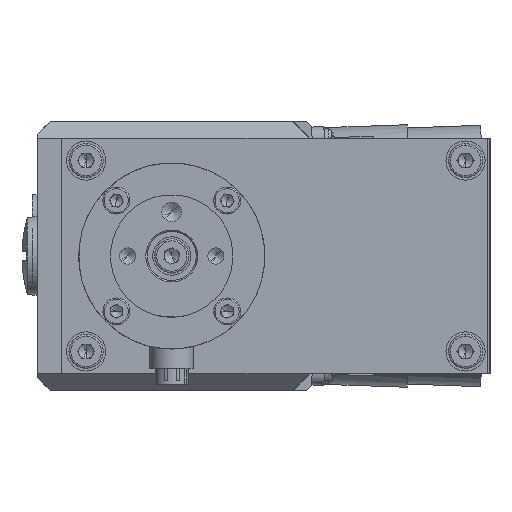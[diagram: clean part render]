
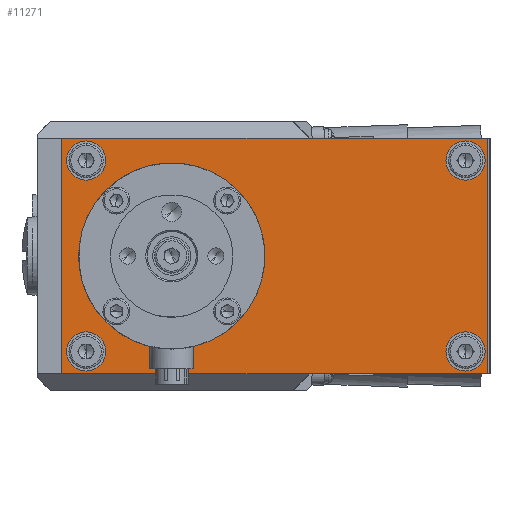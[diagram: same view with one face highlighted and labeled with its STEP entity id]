
A CAD part, left-side view. The second image highlights one B-rep face of the part: STEP entity #11271.
In plain terms, the highlighted planar face has unit normal (-1, 0, 0).
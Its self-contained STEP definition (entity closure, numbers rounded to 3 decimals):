
#1171 = EDGE_CURVE ( 'NONE', #37022, #18701, #36975, .T. ) ;
#1209 = CARTESIAN_POINT ( 'NONE',  ( -106.001, 36.879, 21.682 ) ) ;
#1442 = DIRECTION ( 'NONE',  ( 0., 0., 1. ) ) ;
#1638 = FACE_BOUND ( 'NONE', #60932, .T. ) ;
#2040 = DIRECTION ( 'NONE',  ( 0., 0., 1. ) ) ;
#2819 = CARTESIAN_POINT ( 'NONE',  ( -106.001, -23.121, 41.182 ) ) ;
#3285 = CIRCLE ( 'NONE', #46692, 15.5 ) ;
#4385 = LINE ( 'NONE', #48551, #57446 ) ;
#5001 = EDGE_LOOP ( 'NONE', ( #48140, #49958 ) ) ;
#5343 = CARTESIAN_POINT ( 'NONE',  ( -106.001, -23.121, -1.818 ) ) ;
#5771 = ORIENTED_EDGE ( 'NONE', *, *, #43112, .F. ) ;
#6635 = DIRECTION ( 'NONE',  ( -1., 0., 0. ) ) ;
#6830 = EDGE_CURVE ( 'NONE', #41278, #57452, #47120, .T. ) ;
#7094 = CARTESIAN_POINT ( 'NONE',  ( -106.001, 54.379, 41.182 ) ) ;
#7319 = DIRECTION ( 'NONE',  ( 0., 0., 1. ) ) ;
#7868 = EDGE_CURVE ( 'NONE', #33762, #30334, #56106, .T. ) ;
#8079 = CARTESIAN_POINT ( 'NONE',  ( -106.001, 59.379, -2.318 ) ) ;
#8517 = CARTESIAN_POINT ( 'NONE',  ( -106.001, 54.379, 2.182 ) ) ;
#9055 = FACE_BOUND ( 'NONE', #15400, .T. ) ;
#9257 = EDGE_CURVE ( 'NONE', #59799, #62836, #65049, .T. ) ;
#9311 = ORIENTED_EDGE ( 'NONE', *, *, #9257, .F. ) ;
#9875 = CIRCLE ( 'NONE', #23671, 4. ) ;
#9996 = VERTEX_POINT ( 'NONE', #5343 ) ;
#10100 = LINE ( 'NONE', #68487, #20051 ) ;
#10320 = DIRECTION ( 'NONE',  ( 0., 0., 1. ) ) ;
#10460 = AXIS2_PLACEMENT_3D ( 'NONE', #36754, #31230, #36966 ) ;
#10747 = VERTEX_POINT ( 'NONE', #12165 ) ;
#11271 = ADVANCED_FACE ( 'NONE', ( #47230, #24824, #23178, #9055, #1638, #11601 ), #44740, .F. ) ;
#11546 = EDGE_CURVE ( 'NONE', #18701, #37022, #9875, .T. ) ;
#11601 = FACE_OUTER_BOUND ( 'NONE', #23042, .T. ) ;
#11682 = LINE ( 'NONE', #40462, #21639 ) ;
#12165 = CARTESIAN_POINT ( 'NONE',  ( -106.001, 59.379, 45.682 ) ) ;
#12175 = DIRECTION ( 'NONE',  ( -1., 0., 0. ) ) ;
#12963 = CARTESIAN_POINT ( 'NONE',  ( -106.001, -23.121, 2.182 ) ) ;
#13136 = CARTESIAN_POINT ( 'NONE',  ( -106.001, 54.379, 37.182 ) ) ;
#13314 = DIRECTION ( 'NONE',  ( -1., 0., 0. ) ) ;
#13472 = CARTESIAN_POINT ( 'NONE',  ( -106.001, -27.621, -2.318 ) ) ;
#14695 = AXIS2_PLACEMENT_3D ( 'NONE', #7094, #13314, #7319 ) ;
#15400 = EDGE_LOOP ( 'NONE', ( #67355, #52703 ) ) ;
#15727 = DIRECTION ( 'NONE',  ( -1., 0., 0. ) ) ;
#16038 = VERTEX_POINT ( 'NONE', #61137 ) ;
#16045 = CARTESIAN_POINT ( 'NONE',  ( -106.001, 36.879, 37.182 ) ) ;
#16468 = EDGE_CURVE ( 'NONE', #49034, #36085, #4385, .T. ) ;
#17167 = CARTESIAN_POINT ( 'NONE',  ( -106.001, -23.121, 37.182 ) ) ;
#17299 = VERTEX_POINT ( 'NONE', #17823 ) ;
#17793 = DIRECTION ( 'NONE',  ( -1., 0., 0. ) ) ;
#17823 = CARTESIAN_POINT ( 'NONE',  ( -106.001, -23.121, 6.182 ) ) ;
#18238 = EDGE_CURVE ( 'NONE', #30334, #33762, #23512, .T. ) ;
#18701 = VERTEX_POINT ( 'NONE', #17167 ) ;
#20051 = VECTOR ( 'NONE', #10320, 1000. ) ;
#20640 = CARTESIAN_POINT ( 'NONE',  ( -106.001, -23.121, 41.182 ) ) ;
#21639 = VECTOR ( 'NONE', #45141, 1000. ) ;
#22375 = DIRECTION ( 'NONE',  ( 0., -1., 0. ) ) ;
#23042 = EDGE_LOOP ( 'NONE', ( #42405, #59340, #33520, #38023 ) ) ;
#23178 = FACE_BOUND ( 'NONE', #5001, .T. ) ;
#23302 = CARTESIAN_POINT ( 'NONE',  ( -106.001, -23.121, 2.182 ) ) ;
#23434 = EDGE_CURVE ( 'NONE', #10747, #49034, #47699, .T. ) ;
#23512 = CIRCLE ( 'NONE', #14695, 4. ) ;
#23671 = AXIS2_PLACEMENT_3D ( 'NONE', #20640, #15727, #63520 ) ;
#24824 = FACE_BOUND ( 'NONE', #36153, .T. ) ;
#25792 = EDGE_CURVE ( 'NONE', #57452, #41278, #3285, .T. ) ;
#26497 = AXIS2_PLACEMENT_3D ( 'NONE', #2819, #51258, #29447 ) ;
#27796 = CARTESIAN_POINT ( 'NONE',  ( -106.001, 54.379, 6.182 ) ) ;
#27949 = DIRECTION ( 'NONE',  ( 0., 0., 1. ) ) ;
#28173 = CARTESIAN_POINT ( 'NONE',  ( -106.001, 36.879, 21.682 ) ) ;
#28227 = DIRECTION ( 'NONE',  ( -1., 0., 0. ) ) ;
#28951 = DIRECTION ( 'NONE',  ( 0., 0., 1. ) ) ;
#29385 = CARTESIAN_POINT ( 'NONE',  ( -106.001, -27.621, -2.318 ) ) ;
#29447 = DIRECTION ( 'NONE',  ( 0., 0., 1. ) ) ;
#29605 = ORIENTED_EDGE ( 'NONE', *, *, #6830, .F. ) ;
#30334 = VERTEX_POINT ( 'NONE', #66256 ) ;
#31230 = DIRECTION ( 'NONE',  ( -1., 0., 0. ) ) ;
#31897 = EDGE_CURVE ( 'NONE', #16038, #10747, #11682, .T. ) ;
#33086 = CARTESIAN_POINT ( 'NONE',  ( -106.001, 54.379, 2.182 ) ) ;
#33520 = ORIENTED_EDGE ( 'NONE', *, *, #23434, .T. ) ;
#33615 = VECTOR ( 'NONE', #60289, 1000. ) ;
#33762 = VERTEX_POINT ( 'NONE', #13136 ) ;
#34032 = EDGE_CURVE ( 'NONE', #36085, #16038, #10100, .T. ) ;
#36004 = EDGE_CURVE ( 'NONE', #17299, #9996, #57131, .T. ) ;
#36085 = VERTEX_POINT ( 'NONE', #29385 ) ;
#36153 = EDGE_LOOP ( 'NONE', ( #61970, #53577 ) ) ;
#36754 = CARTESIAN_POINT ( 'NONE',  ( -106.001, 54.379, 41.182 ) ) ;
#36966 = DIRECTION ( 'NONE',  ( 0., 0., 1. ) ) ;
#36975 = CIRCLE ( 'NONE', #26497, 4. ) ;
#37022 = VERTEX_POINT ( 'NONE', #67744 ) ;
#38023 = ORIENTED_EDGE ( 'NONE', *, *, #16468, .T. ) ;
#38419 = AXIS2_PLACEMENT_3D ( 'NONE', #23302, #12175, #27949 ) ;
#39557 = AXIS2_PLACEMENT_3D ( 'NONE', #13472, #66544, #40071 ) ;
#40071 = DIRECTION ( 'NONE',  ( 0., 0., -1. ) ) ;
#40414 = AXIS2_PLACEMENT_3D ( 'NONE', #33086, #28227, #2040 ) ;
#40462 = CARTESIAN_POINT ( 'NONE',  ( -106.001, 59.379, 45.682 ) ) ;
#41278 = VERTEX_POINT ( 'NONE', #16045 ) ;
#42405 = ORIENTED_EDGE ( 'NONE', *, *, #34032, .T. ) ;
#43112 = EDGE_CURVE ( 'NONE', #62836, #59799, #54173, .T. ) ;
#44740 = PLANE ( 'NONE',  #39557 ) ;
#45141 = DIRECTION ( 'NONE',  ( 0., 1., 0. ) ) ;
#45738 = CIRCLE ( 'NONE', #38419, 4. ) ;
#46692 = AXIS2_PLACEMENT_3D ( 'NONE', #28173, #6635, #53923 ) ;
#47120 = CIRCLE ( 'NONE', #54348, 15.5 ) ;
#47230 = FACE_BOUND ( 'NONE', #49842, .T. ) ;
#47699 = LINE ( 'NONE', #65829, #33615 ) ;
#48140 = ORIENTED_EDGE ( 'NONE', *, *, #18238, .F. ) ;
#48551 = CARTESIAN_POINT ( 'NONE',  ( -106.001, -27.621, -2.318 ) ) ;
#49034 = VERTEX_POINT ( 'NONE', #8079 ) ;
#49767 = ORIENTED_EDGE ( 'NONE', *, *, #25792, .F. ) ;
#49842 = EDGE_LOOP ( 'NONE', ( #5771, #9311 ) ) ;
#49958 = ORIENTED_EDGE ( 'NONE', *, *, #7868, .F. ) ;
#51258 = DIRECTION ( 'NONE',  ( -1., 0., 0. ) ) ;
#52703 = ORIENTED_EDGE ( 'NONE', *, *, #11546, .F. ) ;
#53577 = ORIENTED_EDGE ( 'NONE', *, *, #53944, .F. ) ;
#53923 = DIRECTION ( 'NONE',  ( 0., 0., 1. ) ) ;
#53944 = EDGE_CURVE ( 'NONE', #9996, #17299, #45738, .T. ) ;
#54173 = CIRCLE ( 'NONE', #40414, 4. ) ;
#54348 = AXIS2_PLACEMENT_3D ( 'NONE', #1209, #64945, #1442 ) ;
#54957 = CARTESIAN_POINT ( 'NONE',  ( -106.001, 54.379, -1.818 ) ) ;
#56106 = CIRCLE ( 'NONE', #10460, 4. ) ;
#56950 = DIRECTION ( 'NONE',  ( -1., 0., 0. ) ) ;
#57131 = CIRCLE ( 'NONE', #62350, 4. ) ;
#57446 = VECTOR ( 'NONE', #22375, 1000. ) ;
#57452 = VERTEX_POINT ( 'NONE', #66943 ) ;
#57576 = AXIS2_PLACEMENT_3D ( 'NONE', #8517, #56950, #66911 ) ;
#59340 = ORIENTED_EDGE ( 'NONE', *, *, #31897, .T. ) ;
#59799 = VERTEX_POINT ( 'NONE', #54957 ) ;
#60289 = DIRECTION ( 'NONE',  ( 0., 0., -1. ) ) ;
#60932 = EDGE_LOOP ( 'NONE', ( #29605, #49767 ) ) ;
#61137 = CARTESIAN_POINT ( 'NONE',  ( -106.001, -27.621, 45.682 ) ) ;
#61970 = ORIENTED_EDGE ( 'NONE', *, *, #36004, .F. ) ;
#62350 = AXIS2_PLACEMENT_3D ( 'NONE', #12963, #17793, #28951 ) ;
#62836 = VERTEX_POINT ( 'NONE', #27796 ) ;
#63520 = DIRECTION ( 'NONE',  ( 0., 0., 1. ) ) ;
#64945 = DIRECTION ( 'NONE',  ( -1., 0., 0. ) ) ;
#65049 = CIRCLE ( 'NONE', #57576, 4. ) ;
#65829 = CARTESIAN_POINT ( 'NONE',  ( -106.001, 59.379, -2.318 ) ) ;
#66256 = CARTESIAN_POINT ( 'NONE',  ( -106.001, 54.379, 45.182 ) ) ;
#66544 = DIRECTION ( 'NONE',  ( 1., 0., 0. ) ) ;
#66911 = DIRECTION ( 'NONE',  ( 0., 0., 1. ) ) ;
#66943 = CARTESIAN_POINT ( 'NONE',  ( -106.001, 36.879, 6.182 ) ) ;
#67355 = ORIENTED_EDGE ( 'NONE', *, *, #1171, .F. ) ;
#67744 = CARTESIAN_POINT ( 'NONE',  ( -106.001, -23.121, 45.182 ) ) ;
#68487 = CARTESIAN_POINT ( 'NONE',  ( -106.001, -27.621, 45.682 ) ) ;
